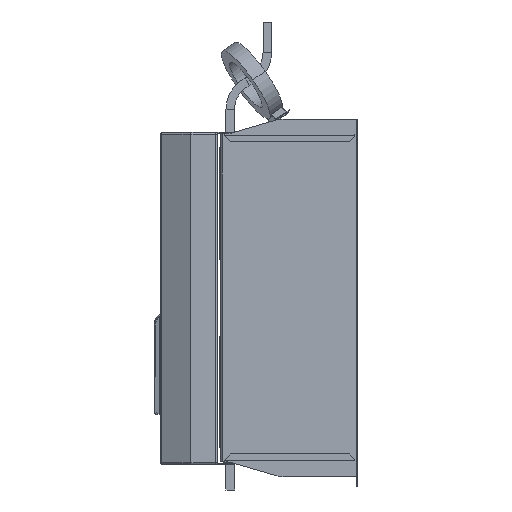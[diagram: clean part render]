
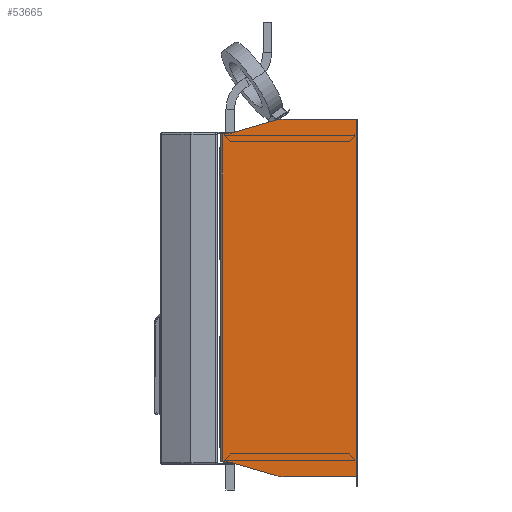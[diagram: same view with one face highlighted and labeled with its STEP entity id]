
A CAD part, left-side view. The second image highlights one B-rep face of the part: STEP entity #53665.
In plain terms, the highlighted planar face has unit normal (-1, 0, 0).
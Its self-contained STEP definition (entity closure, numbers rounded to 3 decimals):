
#14929 = LINE ( 'NONE', #192824, #14932 ) ;
#14932 = VECTOR ( 'NONE', #192828, 1000. ) ;
#15951 = LINE ( 'NONE', #193611, #15954 ) ;
#15954 = VECTOR ( 'NONE', #193600, 1000. ) ;
#16071 = LINE ( 'NONE', #164540, #16076 ) ;
#16076 = VECTOR ( 'NONE', #164566, 1000. ) ;
#16087 = LINE ( 'NONE', #164738, #16110 ) ;
#16110 = VECTOR ( 'NONE', #164742, 1000. ) ;
#16150 = LINE ( 'NONE', #164956, #16151 ) ;
#16151 = VECTOR ( 'NONE', #164955, 1000. ) ;
#16379 = CIRCLE ( 'NONE', #57366, 40. ) ;
#37579 = CIRCLE ( 'NONE', #56748, 40. ) ;
#37922 = LINE ( 'NONE', #60611, #37928 ) ;
#37928 = VECTOR ( 'NONE', #60617, 1000. ) ;
#39108 = LINE ( 'NONE', #90989, #39112 ) ;
#39112 = VECTOR ( 'NONE', #90995, 1000. ) ;
#46754 = CARTESIAN_POINT ( 'NONE',  ( -215., 110.654, 225. ) ) ;
#46755 = DIRECTION ( 'NONE',  ( 1., 0., 0. ) ) ;
#46758 = DIRECTION ( 'NONE',  ( 0., 0., 1. ) ) ;
#53665 = ADVANCED_FACE ( 'NONE', ( #78387 ), #60639, .T. ) ;
#56680 = AXIS2_PLACEMENT_3D ( 'NONE', #46754, #46755, #46758 ) ;
#56725 = AXIS2_PLACEMENT_3D ( 'NONE', #58743, #58746, #58750 ) ;
#56748 = AXIS2_PLACEMENT_3D ( 'NONE', #59449, #59452, #59456 ) ;
#57366 = AXIS2_PLACEMENT_3D ( 'NONE', #167238, #167244, #167250 ) ;
#57593 = AXIS2_PLACEMENT_3D ( 'NONE', #60606, #60605, #60592 ) ;
#57975 = DIRECTION ( 'NONE',  ( 0., 1., 0. ) ) ;
#57987 = CARTESIAN_POINT ( 'NONE',  ( -215., 0., -243. ) ) ;
#58743 = CARTESIAN_POINT ( 'NONE',  ( -215., 197.146, 283. ) ) ;
#58746 = DIRECTION ( 'NONE',  ( -1., 0., 0. ) ) ;
#58750 = DIRECTION ( 'NONE',  ( 0., 0., 1. ) ) ;
#59449 = CARTESIAN_POINT ( 'NONE',  ( -215., 197.146, -283. ) ) ;
#59452 = DIRECTION ( 'NONE',  ( 1., 0., 0. ) ) ;
#59456 = DIRECTION ( 'NONE',  ( 0., 0., 1. ) ) ;
#60592 = DIRECTION ( 'NONE',  ( 0., 0., 1. ) ) ;
#60605 = DIRECTION ( 'NONE',  ( -1., 0., 0. ) ) ;
#60606 = CARTESIAN_POINT ( 'NONE',  ( -215., 0., 243. ) ) ;
#60611 = CARTESIAN_POINT ( 'NONE',  ( -215., 146.429, -256.191 ) ) ;
#60617 = DIRECTION ( 'NONE',  ( 0., -0.96, -0.281 ) ) ;
#60639 = PLANE ( 'NONE',  #57593 ) ;
#78387 = FACE_OUTER_BOUND ( 'NONE', #146225, .T. ) ;
#90989 = CARTESIAN_POINT ( 'NONE',  ( -215., 1.6, -265. ) ) ;
#90995 = DIRECTION ( 'NONE',  ( 0., -1., 0. ) ) ;
#100764 = CIRCLE ( 'NONE', #56680, 40. ) ;
#100911 = LINE ( 'NONE', #57987, #100915 ) ;
#100915 = VECTOR ( 'NONE', #57975, 1000. ) ;
#100988 = CIRCLE ( 'NONE', #56725, 40. ) ;
#119017 = ORIENTED_EDGE ( 'NONE', *, *, #163586, .T. ) ;
#119020 = ORIENTED_EDGE ( 'NONE', *, *, #162582, .T. ) ;
#119022 = ORIENTED_EDGE ( 'NONE', *, *, #159382, .F. ) ;
#119024 = ORIENTED_EDGE ( 'NONE', *, *, #159648, .T. ) ;
#119026 = ORIENTED_EDGE ( 'NONE', *, *, #159878, .T. ) ;
#119028 = ORIENTED_EDGE ( 'NONE', *, *, #163979, .T. ) ;
#119030 = ORIENTED_EDGE ( 'NONE', *, *, #161050, .T. ) ;
#119031 = ORIENTED_EDGE ( 'NONE', *, *, #163767, .F. ) ;
#119033 = ORIENTED_EDGE ( 'NONE', *, *, #163822, .F. ) ;
#119035 = ORIENTED_EDGE ( 'NONE', *, *, #159260, .F. ) ;
#119037 = ORIENTED_EDGE ( 'NONE', *, *, #163793, .F. ) ;
#119039 = ORIENTED_EDGE ( 'NONE', *, *, #159515, .F. ) ;
#135565 = CARTESIAN_POINT ( 'NONE',  ( -215., 110.654, 265. ) ) ;
#135570 = CARTESIAN_POINT ( 'NONE',  ( -215., 121.913, -263.383 ) ) ;
#135571 = CARTESIAN_POINT ( 'NONE',  ( -215., 185.887, -244.617 ) ) ;
#135575 = CARTESIAN_POINT ( 'NONE',  ( -215., 110.654, -265. ) ) ;
#135576 = CARTESIAN_POINT ( 'NONE',  ( -215., 200.6, -243. ) ) ;
#135577 = CARTESIAN_POINT ( 'NONE',  ( -215., 200.6, 243. ) ) ;
#135579 = CARTESIAN_POINT ( 'NONE',  ( -215., 2.4, 265. ) ) ;
#135583 = CARTESIAN_POINT ( 'NONE',  ( -215., 2.4, -265. ) ) ;
#146225 = EDGE_LOOP ( 'NONE', ( #119017, #119020, #119022, #119024, #119026, #119028, #119030, #119031, #119033, #119035, #119037, #119039 ) ) ;
#153737 = CARTESIAN_POINT ( 'NONE',  ( -215., 197.146, 243. ) ) ;
#153814 = CARTESIAN_POINT ( 'NONE',  ( -215., 121.913, 263.383 ) ) ;
#153830 = CARTESIAN_POINT ( 'NONE',  ( -215., 185.887, 244.617 ) ) ;
#153833 = CARTESIAN_POINT ( 'NONE',  ( -215., 197.146, -243. ) ) ;
#159260 = EDGE_CURVE ( 'NONE', #196757, #196781, #100764, .T. ) ;
#159382 = EDGE_CURVE ( 'NONE', #196790, #196832, #100911, .T. ) ;
#159515 = EDGE_CURVE ( 'NONE', #196671, #196759, #100988, .T. ) ;
#159648 = EDGE_CURVE ( 'NONE', #196790, #196801, #37579, .T. ) ;
#159878 = EDGE_CURVE ( 'NONE', #196801, #196786, #37922, .T. ) ;
#161050 = EDGE_CURVE ( 'NONE', #196811, #196850, #39108, .T. ) ;
#162582 = EDGE_CURVE ( 'NONE', #196822, #196832, #14929, .T. ) ;
#163586 = EDGE_CURVE ( 'NONE', #196671, #196822, #15951, .T. ) ;
#163767 = EDGE_CURVE ( 'NONE', #196860, #196850, #16071, .T. ) ;
#163793 = EDGE_CURVE ( 'NONE', #196759, #196757, #16087, .T. ) ;
#163822 = EDGE_CURVE ( 'NONE', #196781, #196860, #16150, .T. ) ;
#163979 = EDGE_CURVE ( 'NONE', #196786, #196811, #16379, .T. ) ;
#164540 = CARTESIAN_POINT ( 'NONE',  ( -215., 2.4, -265. ) ) ;
#164566 = DIRECTION ( 'NONE',  ( 0., 0., -1. ) ) ;
#164738 = CARTESIAN_POINT ( 'NONE',  ( -215., 15.164, 294.696 ) ) ;
#164742 = DIRECTION ( 'NONE',  ( 0., -0.96, 0.281 ) ) ;
#164955 = DIRECTION ( 'NONE',  ( 0., -1., 0. ) ) ;
#164956 = CARTESIAN_POINT ( 'NONE',  ( -215., 1.6, 265. ) ) ;
#167238 = CARTESIAN_POINT ( 'NONE',  ( -215., 110.654, -225. ) ) ;
#167244 = DIRECTION ( 'NONE',  ( -1., 0., 0. ) ) ;
#167250 = DIRECTION ( 'NONE',  ( 0., 0., 1. ) ) ;
#192824 = CARTESIAN_POINT ( 'NONE',  ( -215., 200.6, -243. ) ) ;
#192828 = DIRECTION ( 'NONE',  ( 0., 0., -1. ) ) ;
#193600 = DIRECTION ( 'NONE',  ( 0., 1., 0. ) ) ;
#193611 = CARTESIAN_POINT ( 'NONE',  ( -215., 0., 243. ) ) ;
#196671 = VERTEX_POINT ( 'NONE', #153737 ) ;
#196757 = VERTEX_POINT ( 'NONE', #153814 ) ;
#196759 = VERTEX_POINT ( 'NONE', #153830 ) ;
#196781 = VERTEX_POINT ( 'NONE', #135565 ) ;
#196786 = VERTEX_POINT ( 'NONE', #135570 ) ;
#196790 = VERTEX_POINT ( 'NONE', #153833 ) ;
#196801 = VERTEX_POINT ( 'NONE', #135571 ) ;
#196811 = VERTEX_POINT ( 'NONE', #135575 ) ;
#196822 = VERTEX_POINT ( 'NONE', #135577 ) ;
#196832 = VERTEX_POINT ( 'NONE', #135576 ) ;
#196850 = VERTEX_POINT ( 'NONE', #135583 ) ;
#196860 = VERTEX_POINT ( 'NONE', #135579 ) ;
